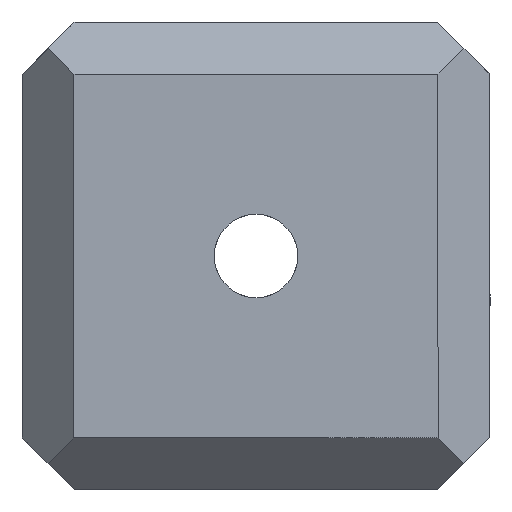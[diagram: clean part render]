
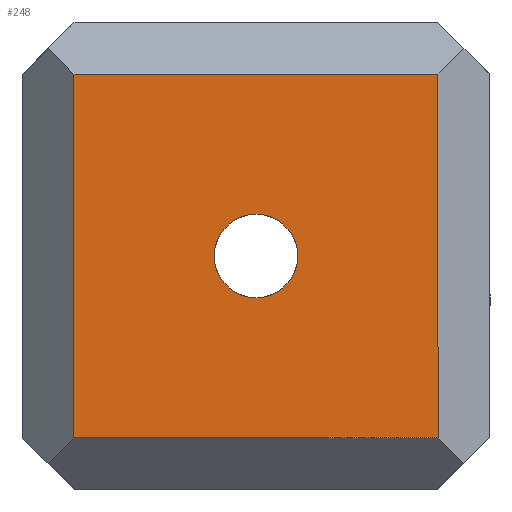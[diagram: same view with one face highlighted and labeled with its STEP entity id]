
A CAD part, left-side view. The second image highlights one B-rep face of the part: STEP entity #248.
In plain terms, the highlighted planar face has unit normal (-1, 0, 0).
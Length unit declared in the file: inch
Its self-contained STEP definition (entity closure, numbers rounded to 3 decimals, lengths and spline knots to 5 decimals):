
#126 = VERTEX_POINT ( 'NONE', #1438 ) ;
#195 = DIRECTION ( 'NONE',  ( 0., -1., 0. ) ) ;
#196 = CARTESIAN_POINT ( 'NONE',  ( -0.5625, 0., -0.1005 ) ) ;
#209 = ORIENTED_EDGE ( 'NONE', *, *, #2542, .T. ) ;
#239 = EDGE_LOOP ( 'NONE', ( #898, #1553 ) ) ;
#243 = LINE ( 'NONE', #2217, #2378 ) ;
#248 = ADVANCED_FACE ( 'NONE', ( #769, #878 ), #1469, .T. ) ;
#285 = DIRECTION ( 'NONE',  ( 0., 0., -1. ) ) ;
#390 = VECTOR ( 'NONE', #2074, 39.37008 ) ;
#393 = AXIS2_PLACEMENT_3D ( 'NONE', #964, #2477, #1215 ) ;
#447 = VECTOR ( 'NONE', #285, 39.37008 ) ;
#455 = CARTESIAN_POINT ( 'NONE',  ( -0.5625, 0., 0. ) ) ;
#554 = CARTESIAN_POINT ( 'NONE',  ( -0.5625, 0., 0.1005 ) ) ;
#605 = VERTEX_POINT ( 'NONE', #196 ) ;
#626 = VERTEX_POINT ( 'NONE', #2016 ) ;
#627 = VECTOR ( 'NONE', #642, 39.37008 ) ;
#642 = DIRECTION ( 'NONE',  ( 0., 1., 0. ) ) ;
#663 = LINE ( 'NONE', #1997, #627 ) ;
#679 = DIRECTION ( 'NONE',  ( 0., -1., 0. ) ) ;
#769 = FACE_BOUND ( 'NONE', #239, .T. ) ;
#816 = EDGE_CURVE ( 'NONE', #626, #1512, #663, .T. ) ;
#878 = FACE_OUTER_BOUND ( 'NONE', #1909, .T. ) ;
#898 = ORIENTED_EDGE ( 'NONE', *, *, #1421, .F. ) ;
#964 = CARTESIAN_POINT ( 'NONE',  ( -0.5625, 0., 0. ) ) ;
#1042 = LINE ( 'NONE', #1913, #390 ) ;
#1060 = CARTESIAN_POINT ( 'NONE',  ( -0.5625, -0.4375, -0.4375 ) ) ;
#1114 = EDGE_CURVE ( 'NONE', #1512, #126, #2239, .T. ) ;
#1148 = CARTESIAN_POINT ( 'NONE',  ( -0.5625, 0.4375, 0.4375 ) ) ;
#1188 = DIRECTION ( 'NONE',  ( -1., 0., 0. ) ) ;
#1198 = ORIENTED_EDGE ( 'NONE', *, *, #1114, .T. ) ;
#1215 = DIRECTION ( 'NONE',  ( 0., -1., 0. ) ) ;
#1332 = CIRCLE ( 'NONE', #2341, 0.1005 ) ;
#1421 = EDGE_CURVE ( 'NONE', #605, #2176, #1529, .T. ) ;
#1438 = CARTESIAN_POINT ( 'NONE',  ( -0.5625, 0.4375, -0.4375 ) ) ;
#1469 = PLANE ( 'NONE',  #1493 ) ;
#1493 = AXIS2_PLACEMENT_3D ( 'NONE', #2658, #1188, #2454 ) ;
#1495 = EDGE_CURVE ( 'NONE', #2176, #605, #1332, .T. ) ;
#1512 = VERTEX_POINT ( 'NONE', #1148 ) ;
#1515 = CARTESIAN_POINT ( 'NONE',  ( -0.5625, 0.4375, 0. ) ) ;
#1529 = CIRCLE ( 'NONE', #393, 0.1005 ) ;
#1553 = ORIENTED_EDGE ( 'NONE', *, *, #1495, .F. ) ;
#1773 = ORIENTED_EDGE ( 'NONE', *, *, #816, .T. ) ;
#1833 = DIRECTION ( 'NONE',  ( -1., 0., 0. ) ) ;
#1909 = EDGE_LOOP ( 'NONE', ( #1198, #209, #2124, #1773 ) ) ;
#1913 = CARTESIAN_POINT ( 'NONE',  ( -0.5625, -0.4375, 0. ) ) ;
#1997 = CARTESIAN_POINT ( 'NONE',  ( -0.5625, 0., 0.4375 ) ) ;
#1999 = VERTEX_POINT ( 'NONE', #1060 ) ;
#2016 = CARTESIAN_POINT ( 'NONE',  ( -0.5625, -0.4375, 0.4375 ) ) ;
#2074 = DIRECTION ( 'NONE',  ( 0., 0., 1. ) ) ;
#2124 = ORIENTED_EDGE ( 'NONE', *, *, #2219, .T. ) ;
#2176 = VERTEX_POINT ( 'NONE', #554 ) ;
#2217 = CARTESIAN_POINT ( 'NONE',  ( -0.5625, 0., -0.4375 ) ) ;
#2219 = EDGE_CURVE ( 'NONE', #1999, #626, #1042, .T. ) ;
#2239 = LINE ( 'NONE', #1515, #447 ) ;
#2341 = AXIS2_PLACEMENT_3D ( 'NONE', #455, #1833, #195 ) ;
#2378 = VECTOR ( 'NONE', #679, 39.37008 ) ;
#2454 = DIRECTION ( 'NONE',  ( 0., -1., 0. ) ) ;
#2477 = DIRECTION ( 'NONE',  ( -1., 0., 0. ) ) ;
#2542 = EDGE_CURVE ( 'NONE', #126, #1999, #243, .T. ) ;
#2658 = CARTESIAN_POINT ( 'NONE',  ( -0.5625, 0., 0. ) ) ;
